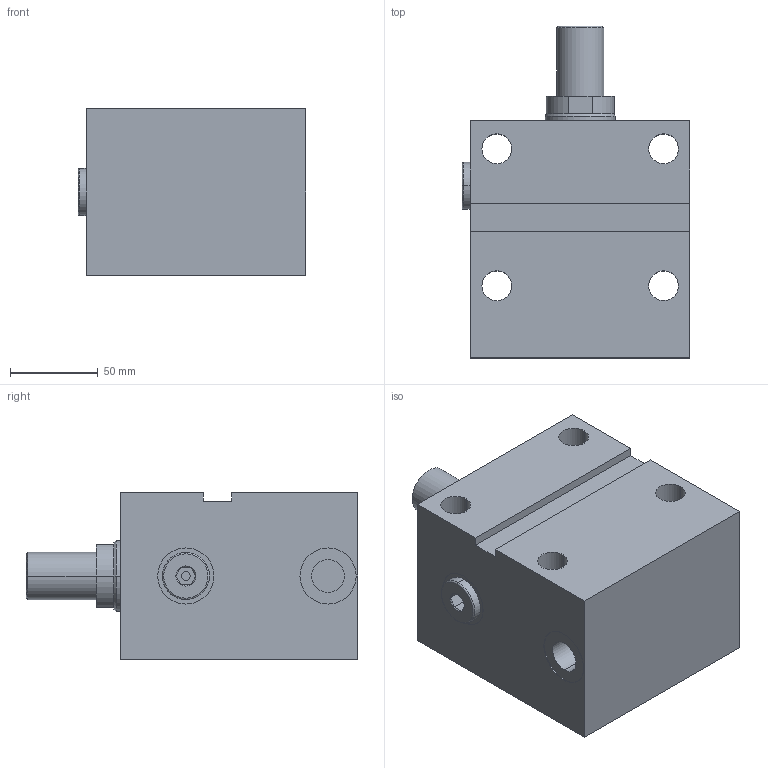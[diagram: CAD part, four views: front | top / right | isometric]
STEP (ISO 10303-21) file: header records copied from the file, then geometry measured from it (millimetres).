
FILE_DESCRIPTION (( 'STEP AP203' ), '1' );
FILE_NAME ('GERMA_Blockzylinder_651-063-025-A.STEP', '2023-08-26T17:08:08', ( '' ), ( '' ), 'SwSTEP 2.0', 'SolidWorks 2016', '' );
FILE_SCHEMA (( 'CONFIG_CONTROL_DESIGN' ));
Length unit declared in the file: millimetre
Products named in the file (3): GERMA_Blockzylinder_651-063-025-A; GH-600-063-ew_GH-651-063-025; Kolben 60x-063_Kolben DU.63-Hub63-AG
Assembly tree (2 placements, depth 2):
  GERMA_Blockzylinder_651-063-025-A
    GH-600-063-ew_GH-651-063-025
    Kolben 60x-063_Kolben DU.63-Hub63-AG
Bounding box: 129.8 x 189 x 95 mm (x, y, z)
Volume: 1489588.4 mm3; surface area: 156518.3 mm2
Topology: 2 solids, 2 shells, 95 faces, 217 edges, 137 vertices
Faces by surface type: cylinder 39, plane 35, cone 19, torus 2
Entity records: 3045 total; most frequent: CARTESIAN_POINT 521, DIRECTION 506, ORIENTED_EDGE 426, EDGE_CURVE 213, AXIS2_PLACEMENT_3D 200, VERTEX_POINT 137, EDGE_LOOP 118, VECTOR 106
